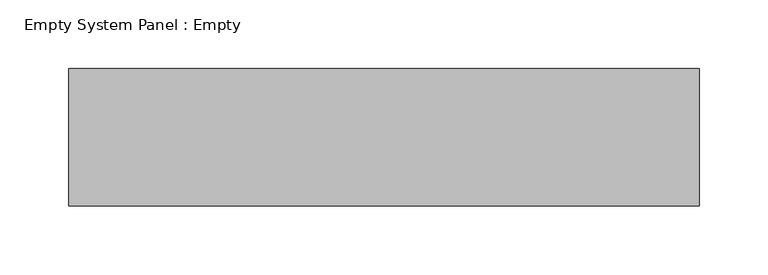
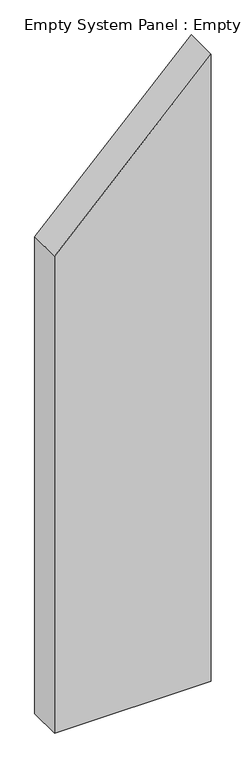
"""IFC4 building model written with IfcOpenShell, lengths in millimetres: plate geometry, Empty System Panel : Empty."""

from ifc_helpers import new_model, si_unit, frame, origin, place, context, project, spatial, polyline, outline, extrude, source, transform, mapped, element, save


def empty_system_panel_empty_334c5307(model_context):
    return source(origin(), model_context, "Body", "SweptSolid", [
        extrude(outline(polyline([(0.0, -229.6046705), (0.0, 229.6046705), (1942.0672245, 229.6046705), (1477.7205154, -229.6046705), (0.0, -229.6046705)])), frame((0.0, -50.0, 0.0), z_axis=(0.0, 1.0, 0.0), x_axis=(0.0, 0.0, 1.0)), (0.0, 0.0, 1.0), 100.0),
    ])


if __name__ == "__main__":
    model = new_model("IFC4")
    model_context = context("Model", 3, world=origin())
    ifc_project = project(units=[si_unit("LENGTHUNIT", "METRE", prefix="MILLI")], contexts=[model_context])
    site = spatial("IfcSite", under=ifc_project)
    building = spatial("IfcBuilding", under=site)
    placement = place(None, origin())
    empty_system_panel_empty_shape = empty_system_panel_empty_334c5307(model_context)
    element("IfcPlate", 1, ObjectType="Empty System Panel : Empty", at=placement, inside=building, context=model_context, shape_type="MappedRepresentation", body=[
        mapped(empty_system_panel_empty_shape, transform((0.0, 0.0, 0.0), x_axis=(1.0, 0.0, 0.0), y_axis=(0.0, 1.0, 0.0), z_axis=(0.0, 0.0, 1.0))),
    ])
    save(model, "model.ifc")
